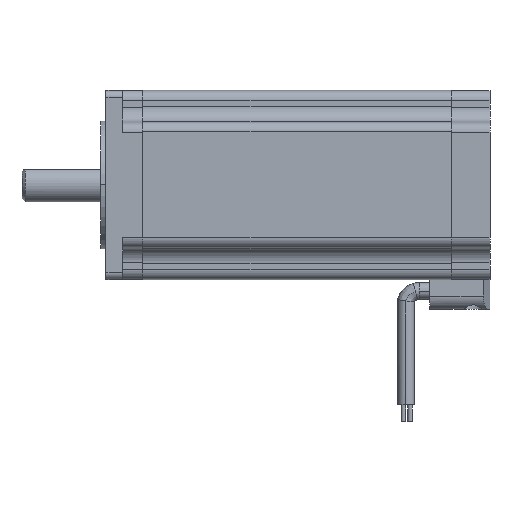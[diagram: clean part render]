
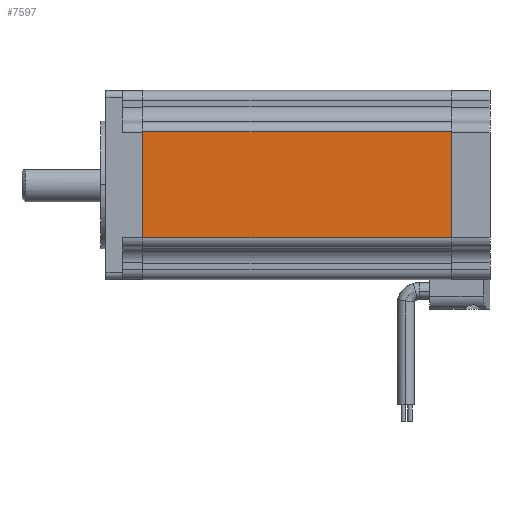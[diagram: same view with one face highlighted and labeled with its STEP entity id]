
A CAD part, left-side view. The second image highlights one B-rep face of the part: STEP entity #7597.
In plain terms, the highlighted planar face has unit normal (-1, 0, 0).
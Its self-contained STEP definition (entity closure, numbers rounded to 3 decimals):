
#144 = FACE_OUTER_BOUND ( 'NONE', #4531, .T. ) ;
#187 = EDGE_CURVE ( 'NONE', #6375, #6496, #6296, .T. ) ;
#255 = EDGE_CURVE ( 'NONE', #6496, #4085, #5667, .T. ) ;
#331 = DIRECTION ( 'NONE',  ( 0., 0., -1. ) ) ;
#340 = EDGE_CURVE ( 'NONE', #4085, #2548, #4907, .T. ) ;
#468 = EDGE_CURVE ( 'NONE', #2548, #6375, #4026, .T. ) ;
#484 = CARTESIAN_POINT ( 'NONE',  ( -28.2, 92., -15.8 ) ) ;
#527 = DIRECTION ( 'NONE',  ( 0., 1., 0. ) ) ;
#734 = DIRECTION ( 'NONE',  ( 0., 0., -1. ) ) ;
#1151 = ORIENTED_EDGE ( 'NONE', *, *, #468, .F. ) ;
#1412 = CARTESIAN_POINT ( 'NONE',  ( -28.2, 92., 15.8 ) ) ;
#2548 = VERTEX_POINT ( 'NONE', #9447 ) ;
#2875 = PLANE ( 'NONE',  #10090 ) ;
#3047 = ORIENTED_EDGE ( 'NONE', *, *, #187, .F. ) ;
#3179 = CARTESIAN_POINT ( 'NONE',  ( -28.2, 0., 18.8 ) ) ;
#4026 = LINE ( 'NONE', #8085, #4034 ) ;
#4034 = VECTOR ( 'NONE', #8008, 1000. ) ;
#4085 = VERTEX_POINT ( 'NONE', #4265 ) ;
#4265 = CARTESIAN_POINT ( 'NONE',  ( -28.2, 0., -15.8 ) ) ;
#4393 = CARTESIAN_POINT ( 'NONE',  ( -28.2, 92., 15.8 ) ) ;
#4531 = EDGE_LOOP ( 'NONE', ( #5546, #9160, #3047, #1151 ) ) ;
#4737 = CARTESIAN_POINT ( 'NONE',  ( -28.2, 0., 15.8 ) ) ;
#4907 = LINE ( 'NONE', #484, #4995 ) ;
#4995 = VECTOR ( 'NONE', #527, 1000. ) ;
#5413 = DIRECTION ( 'NONE',  ( 1., 0., 0. ) ) ;
#5546 = ORIENTED_EDGE ( 'NONE', *, *, #340, .F. ) ;
#5614 = VECTOR ( 'NONE', #734, 1000. ) ;
#5667 = LINE ( 'NONE', #3179, #5614 ) ;
#6286 = VECTOR ( 'NONE', #8465, 1000. ) ;
#6296 = LINE ( 'NONE', #1412, #6286 ) ;
#6375 = VERTEX_POINT ( 'NONE', #4393 ) ;
#6496 = VERTEX_POINT ( 'NONE', #4737 ) ;
#7597 = ADVANCED_FACE ( 'NONE', ( #144 ), #2875, .F. ) ;
#8008 = DIRECTION ( 'NONE',  ( 0., 0., 1. ) ) ;
#8085 = CARTESIAN_POINT ( 'NONE',  ( -28.2, 92., 18.8 ) ) ;
#8465 = DIRECTION ( 'NONE',  ( 0., -1., 0. ) ) ;
#9160 = ORIENTED_EDGE ( 'NONE', *, *, #255, .F. ) ;
#9447 = CARTESIAN_POINT ( 'NONE',  ( -28.2, 92., -15.8 ) ) ;
#10090 = AXIS2_PLACEMENT_3D ( 'NONE', #10459, #5413, #331 ) ;
#10459 = CARTESIAN_POINT ( 'NONE',  ( -28.2, 92., 18.8 ) ) ;
